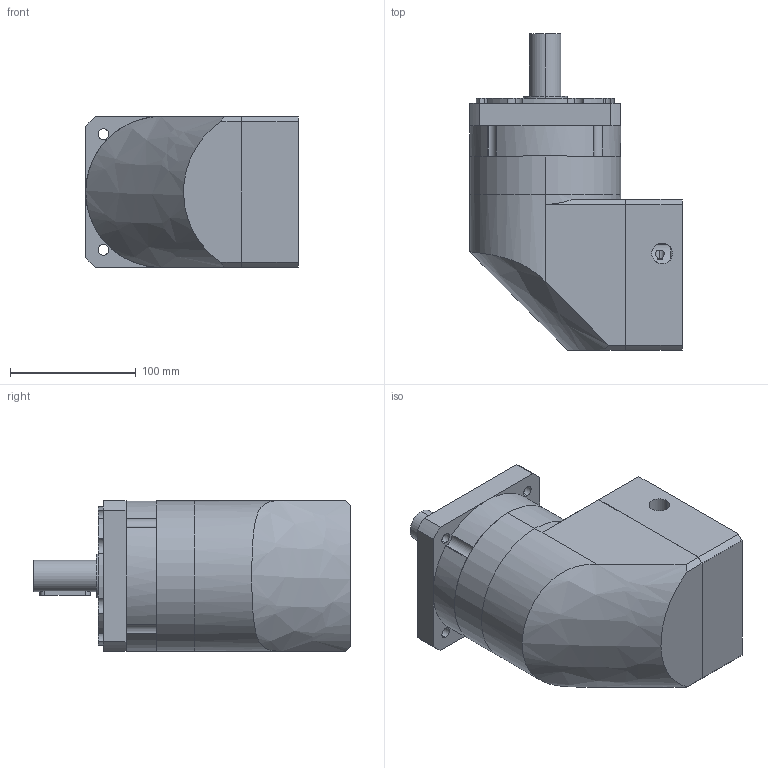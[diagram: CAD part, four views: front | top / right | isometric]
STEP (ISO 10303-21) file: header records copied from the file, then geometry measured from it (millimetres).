
FILE_DESCRIPTION (( 'STEP AP214' ), '1' );
FILE_NAME ('PFR120-L1-S2-P2 22-110-145-M8.STEP', '2023-08-26T05:55:07', ( '微软用户' ), ( '微软中国' ), 'SwSTEP 2.0', 'SolidWorks 2018', '' );
FILE_SCHEMA (( 'AUTOMOTIVE_DESIGN' ));
Length unit declared in the file: millimetre
Products named in the file (9): 螺釘範本 M8x20; PFR120-眊极; PFR120 κｳﾝﾈｦ-ﾓﾅｻｯ_ﾒｻｼｶﾄﾚｳﾝﾈｦ; PFR120-蟀諉啣; PFR120-L1-S2-P2 22-110-145-M8; 邧埴瑩 8x7x40; PFR120-薊粣ん-梓袧; 粣創-3207A 35x72x27_2; PFR120 奻屳唳
Assembly tree (8 placements, depth 2):
  PFR120-L1-S2-P2 22-110-145-M8
    PFR120-眊极
    PFR120 κｳﾝﾈｦ-ﾓﾅｻｯ_ﾒｻｼｶﾄﾚｳﾝﾈｦ
    PFR120 奻屳唳
    PFR120-蟀諉啣
    PFR120-薊粣ん-梓袧
    螺釘範本 M8x20
    邧埴瑩 8x7x40
    粣創-3207A 35x72x27_2
Bounding box: 169 x 252 x 120 mm (x, y, z)
Volume: 2620644.5 mm3; surface area: 303702.5 mm2
Topology: 8 solids, 16 shells, 591 faces, 1630 edges, 1058 vertices
Faces by surface type: cylinder 226, plane 198, bspline 139, cone 28
Entity records: 23407 total; most frequent: CARTESIAN_POINT 8584, ORIENTED_EDGE 3224, DIRECTION 2851, EDGE_CURVE 1612, AXIS2_PLACEMENT_3D 1143, VERTEX_POINT 1058, CIRCLE 680, EDGE_LOOP 672
